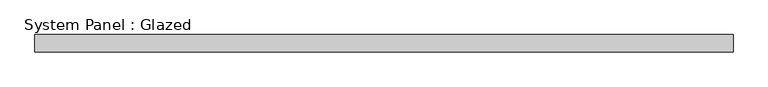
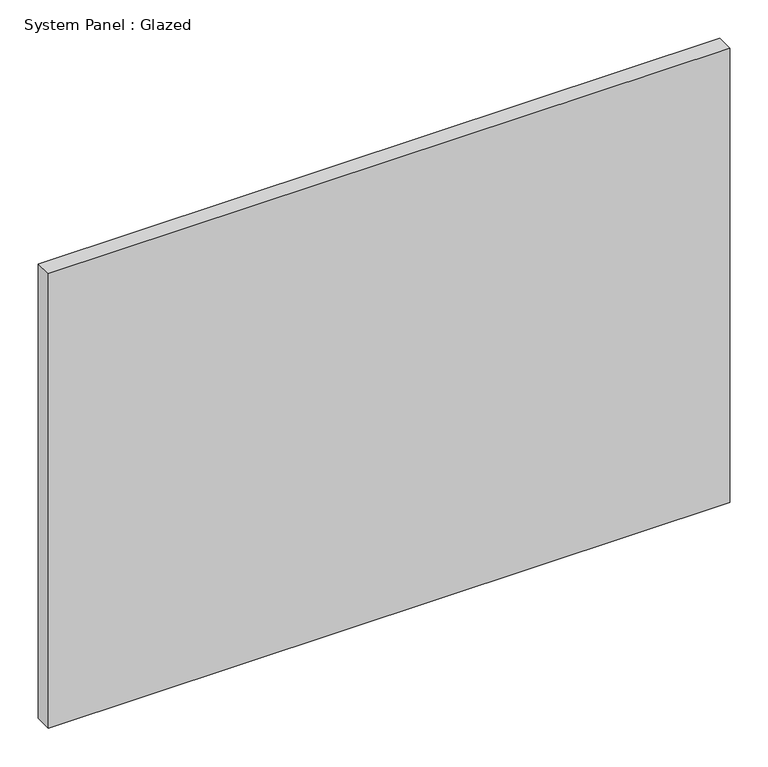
"""IFC4 building model written with IfcOpenShell, lengths in millimetres: plate geometry, System Panel : Glazed."""

from ifc_helpers import new_model, si_unit, origin, origin_with_axes, place, context, project, spatial, polyline, outline, extrude, source, transform, mapped, element, save


def system_panel_glazed_0183ba37(model_context):
    return source(origin(), model_context, "Body", "SweptSolid", [
        extrude(outline(polyline([(511.4925, -44.45), (-511.4925, -44.45), (-511.4925, -19.05), (511.4925, -19.05), (511.4925, -44.45)])), origin_with_axes(), (0.0, 0.0, 1.0), 721.8891834),
    ])


if __name__ == "__main__":
    model = new_model("IFC4")
    model_context = context("Model", 3, world=origin())
    ifc_project = project(units=[si_unit("LENGTHUNIT", "METRE", prefix="MILLI")], contexts=[model_context])
    site = spatial("IfcSite", under=ifc_project)
    building = spatial("IfcBuilding", under=site)
    placement = place(None, origin())
    system_panel_glazed_shape = system_panel_glazed_0183ba37(model_context)
    element("IfcPlate", 1, ObjectType="System Panel : Glazed", at=placement, inside=building, context=model_context, shape_type="MappedRepresentation", body=[
        mapped(system_panel_glazed_shape, transform((0.0, 0.0, 0.0), x_axis=(1.0, 0.0, 0.0), y_axis=(0.0, 1.0, 0.0), z_axis=(0.0, 0.0, 1.0))),
    ])
    save(model, "model.ifc")
